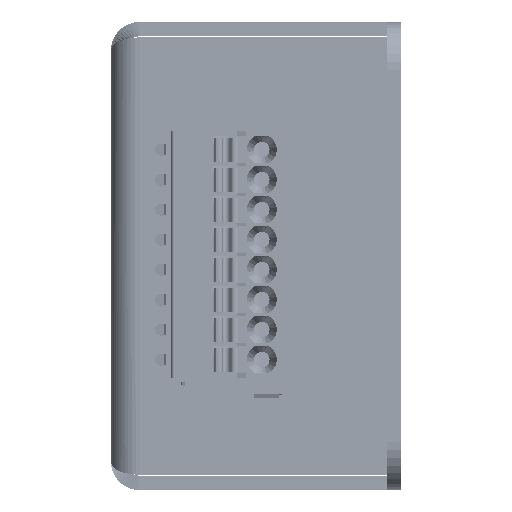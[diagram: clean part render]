
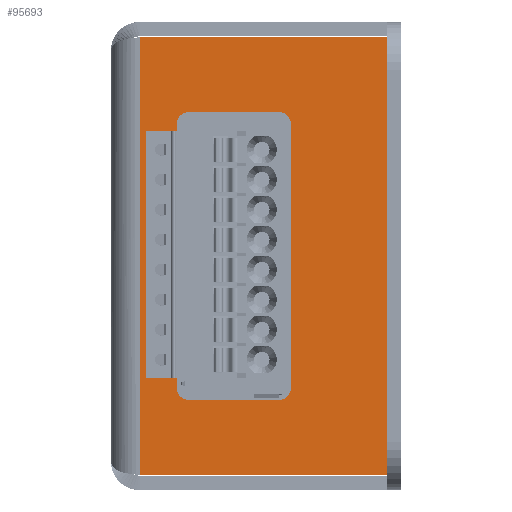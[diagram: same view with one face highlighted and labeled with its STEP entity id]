
A CAD part, left-side view. The second image highlights one B-rep face of the part: STEP entity #95693.
In plain terms, the highlighted planar face has unit normal (-1, 0, 0).
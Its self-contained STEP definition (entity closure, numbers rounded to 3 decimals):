
#2033 = ORIENTED_EDGE ( 'NONE', *, *, #137133, .F. ) ;
#4697 = EDGE_CURVE ( 'NONE', #330627, #203615, #60267, .T. ) ;
#6922 = CARTESIAN_POINT ( 'NONE',  ( -71.5, -23., -9.5 ) ) ;
#10831 = CARTESIAN_POINT ( 'NONE',  ( -71.5, -24., -9.5 ) ) ;
#13249 = LINE ( 'NONE', #236306, #265098 ) ;
#13948 = VERTEX_POINT ( 'NONE', #43476 ) ;
#15344 = AXIS2_PLACEMENT_3D ( 'NONE', #238755, #17502, #222139 ) ;
#17502 = DIRECTION ( 'NONE',  ( 1., 0., 0. ) ) ;
#19581 = ORIENTED_EDGE ( 'NONE', *, *, #249916, .F. ) ;
#20709 = EDGE_CURVE ( 'NONE', #210029, #68436, #180660, .T. ) ;
#23269 = LINE ( 'NONE', #140182, #285805 ) ;
#25297 = DIRECTION ( 'NONE',  ( 1., 0., 0. ) ) ;
#27213 = CARTESIAN_POINT ( 'NONE',  ( -71.5, -15., 11. ) ) ;
#29180 = EDGE_CURVE ( 'NONE', #61205, #170411, #337520, .T. ) ;
#34576 = CARTESIAN_POINT ( 'NONE',  ( -71.5, -23., -18.229 ) ) ;
#35606 = ORIENTED_EDGE ( 'NONE', *, *, #54212, .F. ) ;
#36325 = DIRECTION ( 'NONE',  ( 0., -1., 0. ) ) ;
#38561 = DIRECTION ( 'NONE',  ( 0., 0., -1. ) ) ;
#40024 = VERTEX_POINT ( 'NONE', #64320 ) ;
#43476 = CARTESIAN_POINT ( 'NONE',  ( -71.5, -6.5, 12. ) ) ;
#46494 = CARTESIAN_POINT ( 'NONE',  ( -71.5, -24., 9.5 ) ) ;
#51070 = CARTESIAN_POINT ( 'NONE',  ( -71.5, -2.4, 19.5 ) ) ;
#52573 = ORIENTED_EDGE ( 'NONE', *, *, #71912, .T. ) ;
#52887 = DIRECTION ( 'NONE',  ( 0., 0., -1. ) ) ;
#53815 = AXIS2_PLACEMENT_3D ( 'NONE', #233143, #264138, #260526 ) ;
#54212 = EDGE_CURVE ( 'NONE', #61205, #70031, #23269, .T. ) ;
#54845 = VERTEX_POINT ( 'NONE', #199131 ) ;
#56132 = DIRECTION ( 'NONE',  ( 0., 1., 0. ) ) ;
#57536 = EDGE_CURVE ( 'NONE', #332652, #68436, #293339, .T. ) ;
#60267 = LINE ( 'NONE', #225029, #121701 ) ;
#61205 = VERTEX_POINT ( 'NONE', #46494 ) ;
#63579 = CARTESIAN_POINT ( 'NONE',  ( -71.5, -15., -12. ) ) ;
#64320 = CARTESIAN_POINT ( 'NONE',  ( -71.5, -23., 18.229 ) ) ;
#67161 = DIRECTION ( 'NONE',  ( 0., 0., 1. ) ) ;
#67527 = CARTESIAN_POINT ( 'NONE',  ( -71.5, -23., 9.5 ) ) ;
#68436 = VERTEX_POINT ( 'NONE', #27213 ) ;
#70031 = VERTEX_POINT ( 'NONE', #258595 ) ;
#71365 = LINE ( 'NONE', #51070, #312136 ) ;
#71585 = DIRECTION ( 'NONE',  ( 0., 1., 0. ) ) ;
#71912 = EDGE_CURVE ( 'NONE', #330627, #54845, #172974, .T. ) ;
#72969 = DIRECTION ( 'NONE',  ( 0., 1., 0. ) ) ;
#77461 = ORIENTED_EDGE ( 'NONE', *, *, #351543, .F. ) ;
#77981 = EDGE_CURVE ( 'NONE', #210029, #203615, #225027, .T. ) ;
#78558 = CARTESIAN_POINT ( 'NONE',  ( -71.5, -23., 19.5 ) ) ;
#84449 = VERTEX_POINT ( 'NONE', #125199 ) ;
#84777 = ORIENTED_EDGE ( 'NONE', *, *, #77981, .T. ) ;
#91936 = FACE_BOUND ( 'NONE', #209103, .T. ) ;
#95693 = ADVANCED_FACE ( 'NONE', ( #91936, #205306 ), #152281, .F. ) ;
#98963 = ORIENTED_EDGE ( 'NONE', *, *, #4697, .F. ) ;
#102511 = LINE ( 'NONE', #78558, #337694 ) ;
#103297 = CARTESIAN_POINT ( 'NONE',  ( -71.5, -15., -11. ) ) ;
#111882 = VECTOR ( 'NONE', #67161, 1000. ) ;
#112466 = VERTEX_POINT ( 'NONE', #6922 ) ;
#119849 = AXIS2_PLACEMENT_3D ( 'NONE', #310320, #25297, #56132 ) ;
#121701 = VECTOR ( 'NONE', #202993, 1000. ) ;
#125199 = CARTESIAN_POINT ( 'NONE',  ( -71.5, -2.4, 18.229 ) ) ;
#135688 = EDGE_CURVE ( 'NONE', #139518, #54845, #189114, .T. ) ;
#136975 = VECTOR ( 'NONE', #301666, 1000. ) ;
#137133 = EDGE_CURVE ( 'NONE', #84449, #40024, #214042, .T. ) ;
#139518 = VERTEX_POINT ( 'NONE', #253738 ) ;
#140182 = CARTESIAN_POINT ( 'NONE',  ( -71.5, -24., -9.5 ) ) ;
#142491 = CARTESIAN_POINT ( 'NONE',  ( -71.5, -2.4, -18.229 ) ) ;
#142907 = EDGE_LOOP ( 'NONE', ( #19581, #240093, #353592, #214045, #35606, #294804, #77461, #2033 ) ) ;
#148383 = LINE ( 'NONE', #283699, #282220 ) ;
#150032 = CARTESIAN_POINT ( 'NONE',  ( -71.5, -6.5, 11. ) ) ;
#150801 = CARTESIAN_POINT ( 'NONE',  ( -71.5, -6.5, -12. ) ) ;
#151632 = LINE ( 'NONE', #10831, #273281 ) ;
#152281 = PLANE ( 'NONE',  #167208 ) ;
#158408 = CIRCLE ( 'NONE', #222591, 1. ) ;
#162623 = CARTESIAN_POINT ( 'NONE',  ( -71.5, -14., 12. ) ) ;
#166877 = VERTEX_POINT ( 'NONE', #228950 ) ;
#167208 = AXIS2_PLACEMENT_3D ( 'NONE', #261958, #313085, #316702 ) ;
#170411 = VERTEX_POINT ( 'NONE', #67527 ) ;
#172974 = CIRCLE ( 'NONE', #15344, 1. ) ;
#174283 = VECTOR ( 'NONE', #174840, 1000. ) ;
#174840 = DIRECTION ( 'NONE',  ( 0., 1., 0. ) ) ;
#177146 = VECTOR ( 'NONE', #357261, 1000. ) ;
#179958 = EDGE_CURVE ( 'NONE', #112466, #257455, #148383, .T. ) ;
#180660 = LINE ( 'NONE', #63579, #111882 ) ;
#189114 = LINE ( 'NONE', #273246, #177146 ) ;
#199131 = CARTESIAN_POINT ( 'NONE',  ( -71.5, -5.5, -11. ) ) ;
#202993 = DIRECTION ( 'NONE',  ( 0., -1., 0. ) ) ;
#203615 = VERTEX_POINT ( 'NONE', #251438 ) ;
#205306 = FACE_OUTER_BOUND ( 'NONE', #142907, .T. ) ;
#209103 = EDGE_LOOP ( 'NONE', ( #234255, #307428, #340276, #210665, #320197, #84777, #98963, #52573 ) ) ;
#210029 = VERTEX_POINT ( 'NONE', #103297 ) ;
#210665 = ORIENTED_EDGE ( 'NONE', *, *, #57536, .T. ) ;
#214042 = LINE ( 'NONE', #299868, #136975 ) ;
#214045 = ORIENTED_EDGE ( 'NONE', *, *, #263519, .F. ) ;
#222139 = DIRECTION ( 'NONE',  ( 0., 1., 0. ) ) ;
#222591 = AXIS2_PLACEMENT_3D ( 'NONE', #150032, #347300, #72969 ) ;
#225027 = CIRCLE ( 'NONE', #119849, 1. ) ;
#225029 = CARTESIAN_POINT ( 'NONE',  ( -71.5, -5.5, -12. ) ) ;
#228950 = CARTESIAN_POINT ( 'NONE',  ( -71.5, -2.4, -18.229 ) ) ;
#233143 = CARTESIAN_POINT ( 'NONE',  ( -71.5, -14., 11. ) ) ;
#234255 = ORIENTED_EDGE ( 'NONE', *, *, #135688, .F. ) ;
#236306 = CARTESIAN_POINT ( 'NONE',  ( -71.5, -5.5, 12. ) ) ;
#237479 = DIRECTION ( 'NONE',  ( 0., 1., 0. ) ) ;
#238755 = CARTESIAN_POINT ( 'NONE',  ( -71.5, -6.5, -11. ) ) ;
#240093 = ORIENTED_EDGE ( 'NONE', *, *, #354955, .T. ) ;
#248657 = DIRECTION ( 'NONE',  ( 0., 0., 1. ) ) ;
#249916 = EDGE_CURVE ( 'NONE', #166877, #84449, #71365, .T. ) ;
#251438 = CARTESIAN_POINT ( 'NONE',  ( -71.5, -14., -12. ) ) ;
#253738 = CARTESIAN_POINT ( 'NONE',  ( -71.5, -5.5, 11. ) ) ;
#257455 = VERTEX_POINT ( 'NONE', #34576 ) ;
#258595 = CARTESIAN_POINT ( 'NONE',  ( -71.5, -24., -9.5 ) ) ;
#260526 = DIRECTION ( 'NONE',  ( 0., 1., 0. ) ) ;
#261958 = CARTESIAN_POINT ( 'NONE',  ( -71.5, 0., 0. ) ) ;
#263519 = EDGE_CURVE ( 'NONE', #70031, #112466, #151632, .T. ) ;
#264138 = DIRECTION ( 'NONE',  ( 1., 0., 0. ) ) ;
#265098 = VECTOR ( 'NONE', #71585, 1000. ) ;
#273246 = CARTESIAN_POINT ( 'NONE',  ( -71.5, -5.5, -12. ) ) ;
#273281 = VECTOR ( 'NONE', #237479, 1000. ) ;
#282220 = VECTOR ( 'NONE', #38561, 1000. ) ;
#283699 = CARTESIAN_POINT ( 'NONE',  ( -71.5, -23., 19.5 ) ) ;
#285805 = VECTOR ( 'NONE', #332079, 1000. ) ;
#288071 = EDGE_CURVE ( 'NONE', #139518, #13948, #158408, .T. ) ;
#288181 = CARTESIAN_POINT ( 'NONE',  ( -71.5, -24., 9.5 ) ) ;
#293339 = CIRCLE ( 'NONE', #53815, 1. ) ;
#294804 = ORIENTED_EDGE ( 'NONE', *, *, #29180, .T. ) ;
#299868 = CARTESIAN_POINT ( 'NONE',  ( -71.5, -2.4, 18.229 ) ) ;
#301666 = DIRECTION ( 'NONE',  ( 0., -1., 0. ) ) ;
#307428 = ORIENTED_EDGE ( 'NONE', *, *, #288071, .T. ) ;
#310320 = CARTESIAN_POINT ( 'NONE',  ( -71.5, -14., -11. ) ) ;
#312136 = VECTOR ( 'NONE', #248657, 1000. ) ;
#313085 = DIRECTION ( 'NONE',  ( 1., 0., 0. ) ) ;
#315967 = LINE ( 'NONE', #142491, #333216 ) ;
#316702 = DIRECTION ( 'NONE',  ( 0., 1., 0. ) ) ;
#320197 = ORIENTED_EDGE ( 'NONE', *, *, #20709, .F. ) ;
#330627 = VERTEX_POINT ( 'NONE', #150801 ) ;
#332079 = DIRECTION ( 'NONE',  ( 0., 0., -1. ) ) ;
#332652 = VERTEX_POINT ( 'NONE', #162623 ) ;
#333216 = VECTOR ( 'NONE', #36325, 1000. ) ;
#337520 = LINE ( 'NONE', #288181, #174283 ) ;
#337694 = VECTOR ( 'NONE', #52887, 1000. ) ;
#340276 = ORIENTED_EDGE ( 'NONE', *, *, #344954, .F. ) ;
#344954 = EDGE_CURVE ( 'NONE', #332652, #13948, #13249, .T. ) ;
#347300 = DIRECTION ( 'NONE',  ( 1., 0., 0. ) ) ;
#351543 = EDGE_CURVE ( 'NONE', #40024, #170411, #102511, .T. ) ;
#353592 = ORIENTED_EDGE ( 'NONE', *, *, #179958, .F. ) ;
#354955 = EDGE_CURVE ( 'NONE', #166877, #257455, #315967, .T. ) ;
#357261 = DIRECTION ( 'NONE',  ( 0., 0., -1. ) ) ;
